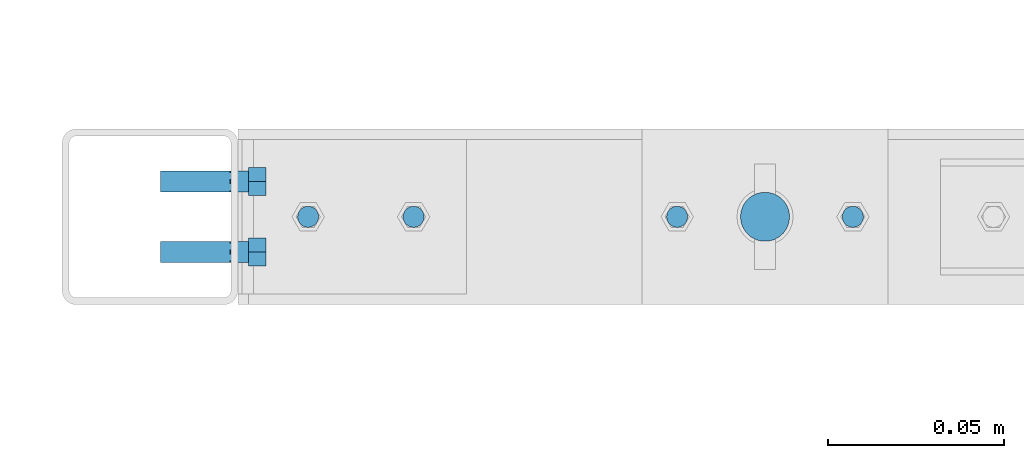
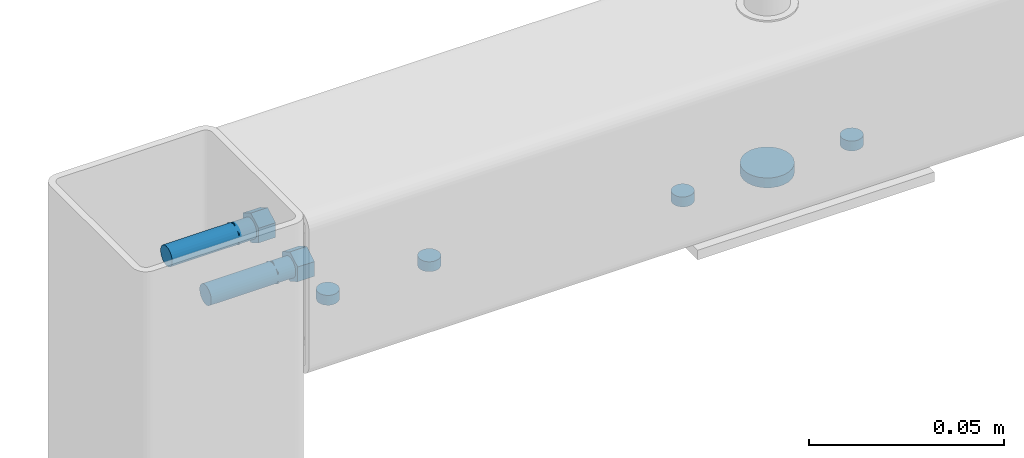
# One storey, part 55 of 91: 5 mechanical fasteners, 1 element without a shape of its own.
"""IFC2X3 building model written with IfcOpenShell, lengths in millimetres."""

from ifc_helpers import new_model, si_unit, frame, origin_with_axes, origin_2d_with_axis, place, context, subcontext, project, spatial, polyline, circle, outline, extrude, source, transform, mapped, material, type_object, element, aggregate, save


model = new_model("IFC2X3")

# Units and contexts
model_context = context("Model", 3, precision=1e-05, world=origin_with_axes())
body_context = subcontext(model_context, "Body", "Model", "MODEL_VIEW")
ifc_project = project(units=[si_unit("LENGTHUNIT", "METRE", prefix="MILLI"), si_unit("AREAUNIT", "SQUARE_METRE"), si_unit("VOLUMEUNIT", "CUBIC_METRE"), si_unit("MASSUNIT", "GRAM", prefix="KILO"), si_unit("TIMEUNIT", "SECOND"), si_unit("PLANEANGLEUNIT", "RADIAN"), si_unit("SOLIDANGLEUNIT", "STERADIAN"), si_unit("THERMODYNAMICTEMPERATUREUNIT", "DEGREE_CELSIUS"), si_unit("LUMINOUSINTENSITYUNIT", "LUMEN")], contexts=[model_context])

# Site, building, storey
site_placement = place(None, origin_with_axes())
site = spatial("IfcSite", under=ifc_project, at=site_placement, Name="Undefined", CompositionType="ELEMENT")
building_placement = place(site_placement, origin_with_axes())
building = spatial("IfcBuilding", under=site, at=building_placement, Name="Undefined", CompositionType="ELEMENT")
storey_placement = place(building_placement, origin_with_axes())
storey = spatial("IfcBuildingStorey", under=building, at=storey_placement, Name="Undefined", CompositionType="ELEMENT", Elevation=0.0)

# Assembly, mechanical fasteners
assembly_placement = place(storey_placement, origin_with_axes())
assembly = element("IfcElementAssembly", 1, at=assembly_placement, inside=storey, Name="Sliding Door Beam", AssemblyPlace="NOTDEFINED", PredefinedType="RIGID_FRAME")
ifc_material_1 = material(Name="TEK_11TPIM")
discrete_accessory_type = type_object("IfcDiscreteAccessoryType", Name="Bolt assembly")
shared_shape_1 = source(origin_with_axes(), body_context, "Body", "SweptSolid", [
    extrude(circle(Radius=3.0, at=origin_2d_with_axis()), frame((0.0, 6.10000000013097, 0.0), z_axis=(0.0, 1.0, 0.0), x_axis=(1.0, 0.0, 0.0)), (0.0, 0.0, 1.0), 3.0),
    extrude(circle(Radius=3.0, at=origin_2d_with_axis()), frame((0.0, 8.9, 0.0), z_axis=(0.0, 1.0, 0.0), x_axis=(1.0, 0.0, 0.0)), (0.0, 0.0, 1.0), 2.1),
    extrude(outline(polyline([(4.61880215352, 0.0), (2.30940107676, 4.00000000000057), (-2.30940107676, 4.00000000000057), (-4.61880215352, 0.0), (-2.30940107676, -4.00000000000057), (2.30940107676, -4.00000000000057), (4.61880215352, 0.0)])), frame((0.0, 1.00000000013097, 0.0), z_axis=(0.0, 1.0, 0.0), x_axis=(1.0, 0.0, 0.0)), (0.0, 0.0, 1.0), 5.0),
    extrude(circle(Radius=3.0, at=origin_2d_with_axis()), frame((0.0, 6.00000000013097, 0.0), z_axis=(0.0, 1.0, 0.0), x_axis=(1.0, 0.0, 0.0)), (0.0, 0.0, 1.0), 25.0),
    extrude(circle(Radius=3.0, at=origin_2d_with_axis()), frame((0.0, 11.0, 0.0), z_axis=(0.0, 1.0, 0.0), x_axis=(1.0, 0.0, 0.0)), (0.0, 0.0, 1.0), 0.1),
    extrude(outline(polyline([(3.46410161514, 0.0), (1.73205080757, 3.00000000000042), (-1.73205080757, 3.00000000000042), (-3.46410161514, 0.0), (-1.73205080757, -3.00000000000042), (1.73205080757, -3.00000000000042), (3.46410161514, 0.0)])), frame((0.0, 11.1000000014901, 0.0), z_axis=(0.0, 1.0, 0.0), x_axis=(1.0, 0.0, 0.0)), (0.0, 0.0, 1.0), 0.1),
])
mechanical_fastener_1_placement = place(assembly_placement, frame((-113579.79, 90380.0, 3351.0), z_axis=(0.0, 1.0, 0.0), x_axis=(0.0, 0.0, -1.0)))
mechanical_fastener_1 = element("IfcMechanicalFastener", 2, at=mechanical_fastener_1_placement, type_object=discrete_accessory_type, material=ifc_material_1, Name="Bolt assembly", NominalDiameter=6.0, NominalLength=25.0, context=body_context, shape_type="MappedRepresentation", body=[
    mapped(shared_shape_1, transform((0.0, 0.0, -10.0))),
    mapped(shared_shape_1, transform((0.0, 0.0, 10.0))),
])
shared_shape_2 = source(origin_with_axes(), body_context, "Body", "SweptSolid", [
    extrude(circle(Radius=3.0, at=origin_2d_with_axis()), frame((0.0, 0.0, 0.0), z_axis=(0.0, 1.0, 0.0), x_axis=(1.0, 0.0, 0.0)), (0.0, 0.0, 1.0), 3.1),
])
mechanical_fastener_2_placement = place(assembly_placement, frame((-113568.79, 90380.0, 3329.0), z_axis=(0.0, -1.0, 0.0), x_axis=(1.0, 0.0, 0.0)))
mechanical_fastener_2 = element("IfcMechanicalFastener", 3, at=mechanical_fastener_2_placement, type_object=discrete_accessory_type, material=ifc_material_1, Name="Bolt assembly", NominalDiameter=6.0, NominalLength=8.0, context=body_context, shape_type="MappedRepresentation", body=[
    mapped(shared_shape_2, transform((0.0, 0.0, 0.0))),
    mapped(shared_shape_2, transform((30.0, 0.0, 0.0))),
])
ifc_material_2 = material(Name="8.8S")
shared_shape_3 = source(origin_with_axes(), body_context, "Body", "SweptSolid", [
    extrude(circle(Radius=3.0, at=origin_2d_with_axis()), frame((0.0, -1.0, 0.0), z_axis=(0.0, 1.0, 0.0), x_axis=(1.0, 0.0, 0.0)), (0.0, 0.0, 1.0), 3.1),
])
mechanical_fastener_3_placement = place(assembly_placement, frame((-113413.79, 90380.0, 3324.0), z_axis=(0.0, 1.0, 0.0), x_axis=(-1.0, 0.0, 0.0)))
mechanical_fastener_3 = element("IfcMechanicalFastener", 4, at=mechanical_fastener_3_placement, type_object=discrete_accessory_type, material=ifc_material_2, Name="Bolt assembly", NominalDiameter=6.0, NominalLength=3.0, context=body_context, shape_type="MappedRepresentation", body=[
    mapped(shared_shape_3, transform((0.0, 0.0, 0.0))),
])
mechanical_fastener_4_placement = place(assembly_placement, frame((-113463.79, 90380.0, 3324.0), z_axis=(0.0, -1.0, 0.0), x_axis=(1.0, 0.0, 0.0)))
mechanical_fastener_4 = element("IfcMechanicalFastener", 5, at=mechanical_fastener_4_placement, type_object=discrete_accessory_type, material=ifc_material_2, Name="Bolt assembly", NominalDiameter=6.0, NominalLength=3.0, context=body_context, shape_type="MappedRepresentation", body=[
    mapped(shared_shape_3, transform((0.0, 0.0, 0.0))),
])
shared_shape_4 = source(origin_with_axes(), body_context, "Body", "SweptSolid", [
    extrude(circle(Radius=7.0, at=origin_2d_with_axis()), frame((0.0, -1.0, 0.0), z_axis=(0.0, 1.0, 0.0), x_axis=(1.0, 0.0, 0.0)), (0.0, 0.0, 1.0), 3.1),
])
mechanical_fastener_5_placement = place(assembly_placement, frame((-113438.79, 90380.0, 3324.0), z_axis=(0.0, -1.0, 0.0), x_axis=(1.0, 0.0, 0.0)))
mechanical_fastener_5 = element("IfcMechanicalFastener", 6, at=mechanical_fastener_5_placement, type_object=discrete_accessory_type, material=ifc_material_2, Name="Bolt assembly", NominalDiameter=12.0, NominalLength=3.0, context=body_context, shape_type="MappedRepresentation", body=[
    mapped(shared_shape_4, transform((0.0, 0.0, 0.0))),
])
aggregate(assembly, [mechanical_fastener_1, mechanical_fastener_2, mechanical_fastener_3, mechanical_fastener_4, mechanical_fastener_5])

save(model, "model.ifc")
